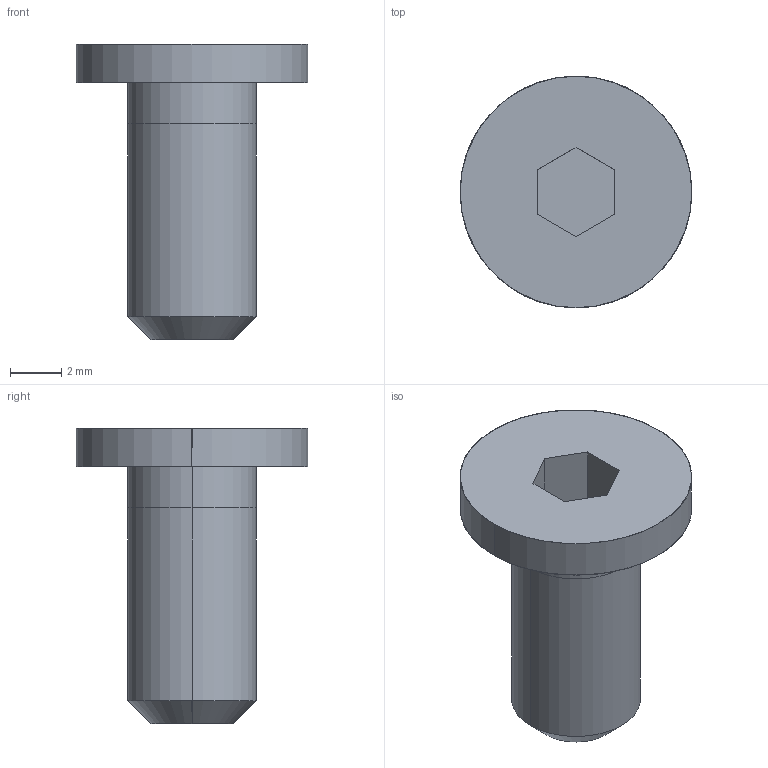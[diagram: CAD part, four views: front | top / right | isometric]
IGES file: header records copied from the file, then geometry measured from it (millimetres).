
Global section: file name: E:\UnigraphicsGraphicData\MISUMI_PRESS-PARTS\IGES\3d_cbss5-10_03484_r00.igs; native system: NX V5.0; preprocessor: UGS NX IGES V5.0; author: MISUMI; date: 20110105.160202; units: millimetre
Bounding box: 9 x 9 x 11.5 mm (x, y, z)
Surface area: 348.9 mm2 (no closed solid volume)
Topology: 0 solids, 0 shells, 18 faces, 100 edges, 100 vertices
Faces by surface type: bspline 18
